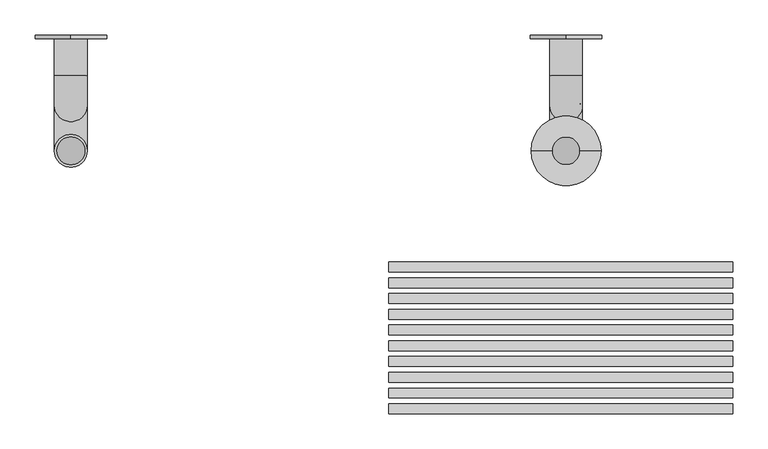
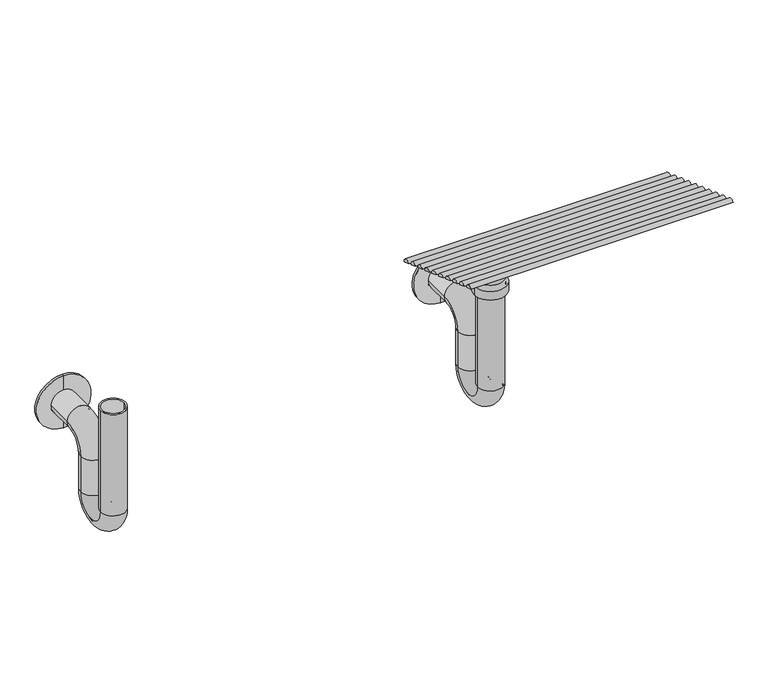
"""IFC4 building model written with IfcOpenShell, lengths in millimetres: proxy geometry, Tanque 2 cubas retangulares : Tanque 2 cubas retangulares."""

from ifc_helpers import new_model, si_unit, point, frame, frame_2d, origin, place, context, project, spatial, polyline, circle_curve, ellipse_curve, trimmed, segment, composite_curve, outline, extrude, source, transform, mapped, element, save
from ifc_brep_helpers import plane_surface, cylinder_surface, revolved_surface, advanced_brep


def generic_models_d0349c49(model_context):
    return source(origin(), model_context, "Body", "SolidModel", [
        advanced_brep(
        [(-383.3271876, -164.9171364, 622.6678395), (-336.6728124, -164.9171364, 622.6678395), (-380.0, -164.9171364, 622.6678395), (-340.0, -164.9171364, 622.6678395), (-383.3271876, -164.9171364, 422.6678395), (-336.6728124, -164.9171364, 422.6678395), (-380.0, -164.9171364, 422.6678395), (-340.0, -164.9171364, 422.6678395), (-336.6728124, -99.9171364, 422.6678395), (-383.3271876, -99.9171364, 422.6678395), (-340.0, -99.9171364, 422.6678395), (-380.0, -99.9171364, 422.6678395), (-383.3271876, -99.9171364, 492.6678395), (-336.6728124, -99.9171364, 492.6678395), (-380.0, -99.9171364, 492.6678395), (-340.0, -99.9171364, 492.6678395), (-336.6728124, -57.4907295, 535.0942464), (-383.3271876, -57.4907295, 535.0942464), (-340.0, -57.4907295, 535.0942464), (-380.0, -57.4907295, 535.0942464), (-383.3271876, 0.0, 535.0942464), (-336.6728124, 0.0, 535.0942464), (-380.0, 0.0, 535.0942464), (-340.0, 0.0, 535.0942464)],
        [
            (0, 1, circle_curve(frame((-360.0, -164.9171364, 622.6678395), z_axis=(0.0, 0.0, 1.0), x_axis=(1.0, 0.0, 0.0)), 23.3271876)),
            (1, 0, circle_curve(frame((-360.0, -164.9171364, 622.6678395), z_axis=(0.0, 0.0, 1.0), x_axis=(1.0, 0.0, 0.0)), 23.3271876)),
            (2, 3, circle_curve(frame((-360.0, -164.9171364, 622.6678395), z_axis=(0.0, 0.0, -1.0), x_axis=(1.0, 0.0, 0.0)), 20.0)),
            (3, 2, circle_curve(frame((-360.0, -164.9171364, 622.6678395), z_axis=(0.0, 0.0, -1.0), x_axis=(1.0, 0.0, 0.0)), 20.0)),
            (0, 4),
            (4, 5, circle_curve(frame((-360.0, -164.9171364, 422.6678395), z_axis=(0.0, 0.0, 1.0), x_axis=(1.0, 0.0, 0.0)), 23.3271876)),
            (5, 1),
            (5, 4, circle_curve(frame((-360.0, -164.9171364, 422.6678395), z_axis=(0.0, 0.0, 1.0), x_axis=(1.0, 0.0, 0.0)), 23.3271876)),
            (2, 6),
            (6, 7, circle_curve(frame((-360.0, -164.9171364, 422.6678395), z_axis=(0.0, 0.0, -1.0), x_axis=(1.0, 0.0, 0.0)), 20.0)),
            (7, 3),
            (7, 6, circle_curve(frame((-360.0, -164.9171364, 422.6678395), z_axis=(0.0, 0.0, -1.0), x_axis=(1.0, 0.0, 0.0)), 20.0)),
            (8, 5, circle_curve(frame((-336.6728124, -132.4171364, 422.6678395), z_axis=(-1.0, 0.0, 0.0), x_axis=(0.0, -1.0, 0.0)), 32.5)),
            (4, 9, circle_curve(frame((-383.3271876, -132.4171364, 422.6678395), z_axis=(1.0, 0.0, 0.0), x_axis=(0.0, -1.0, 0.0)), 32.5)),
            (9, 8, circle_curve(frame((-360.0, -99.9171364, 422.6678395), z_axis=(0.0, 0.0, -1.0), x_axis=(1.0, 0.0, 0.0)), 23.3271876)),
            (8, 9, circle_curve(frame((-360.0, -99.9171364, 422.6678395), z_axis=(0.0, 0.0, -1.0), x_axis=(1.0, 0.0, 0.0)), 23.3271876)),
            (10, 7, circle_curve(frame((-340.0, -132.4171364, 422.6678395), z_axis=(-1.0, 0.0, 0.0), x_axis=(0.0, -1.0, 0.0)), 32.5)),
            (6, 11, circle_curve(frame((-380.0, -132.4171364, 422.6678395), z_axis=(1.0, 0.0, 0.0), x_axis=(0.0, -1.0, 0.0)), 32.5)),
            (11, 10, circle_curve(frame((-360.0, -99.9171364, 422.6678395), z_axis=(0.0, 0.0, 1.0), x_axis=(1.0, 0.0, 0.0)), 20.0)),
            (10, 11, circle_curve(frame((-360.0, -99.9171364, 422.6678395), z_axis=(0.0, 0.0, 1.0), x_axis=(1.0, 0.0, 0.0)), 20.0)),
            (9, 12),
            (12, 13, circle_curve(frame((-360.0, -99.9171364, 492.6678395), z_axis=(0.0, 0.0, -1.0), x_axis=(1.0, 0.0, 0.0)), 23.3271876)),
            (13, 8),
            (13, 12, circle_curve(frame((-360.0, -99.9171364, 492.6678395), z_axis=(0.0, 0.0, -1.0), x_axis=(1.0, 0.0, 0.0)), 23.3271876)),
            (11, 14),
            (14, 15, circle_curve(frame((-360.0, -99.9171364, 492.6678395), z_axis=(0.0, 0.0, 1.0), x_axis=(1.0, 0.0, 0.0)), 20.0)),
            (15, 10),
            (15, 14, circle_curve(frame((-360.0, -99.9171364, 492.6678395), z_axis=(0.0, 0.0, 1.0), x_axis=(1.0, 0.0, 0.0)), 20.0)),
            (16, 13, circle_curve(frame((-336.6728124, -57.4907295, 492.6678395), z_axis=(1.0, 0.0, 0.0), x_axis=(0.0, -1.0, 0.0)), 42.4264069)),
            (12, 17, circle_curve(frame((-383.3271876, -57.4907295, 492.6678395), z_axis=(-1.0, 0.0, 0.0), x_axis=(0.0, -1.0, 0.0)), 42.4264069)),
            (17, 16, circle_curve(frame((-360.0, -57.4907295, 535.0942464), z_axis=(0.0, -1.0, 0.0), x_axis=(1.0, 0.0, 0.0)), 23.3271876)),
            (16, 17, circle_curve(frame((-360.0, -57.4907295, 535.0942464), z_axis=(0.0, -1.0, 0.0), x_axis=(1.0, 0.0, 0.0)), 23.3271876)),
            (18, 15, circle_curve(frame((-340.0, -57.4907295, 492.6678395), z_axis=(1.0, 0.0, 0.0), x_axis=(0.0, -1.0, 0.0)), 42.4264069)),
            (14, 19, circle_curve(frame((-380.0, -57.4907295, 492.6678395), z_axis=(-1.0, 0.0, 0.0), x_axis=(0.0, -1.0, 0.0)), 42.4264069)),
            (19, 18, circle_curve(frame((-360.0, -57.4907295, 535.0942464), z_axis=(0.0, 1.0, 0.0), x_axis=(1.0, 0.0, 0.0)), 20.0)),
            (18, 19, circle_curve(frame((-360.0, -57.4907295, 535.0942464), z_axis=(0.0, 1.0, 0.0), x_axis=(1.0, 0.0, 0.0)), 20.0)),
            (20, 21, circle_curve(frame((-360.0, 0.0, 535.0942464), z_axis=(0.0, 1.0, 0.0), x_axis=(1.0, 0.0, 0.0)), 23.3271876)),
            (21, 20, circle_curve(frame((-360.0, 0.0, 535.0942464), z_axis=(0.0, 1.0, 0.0), x_axis=(1.0, 0.0, 0.0)), 23.3271876)),
            (22, 23, circle_curve(frame((-360.0, 0.0, 535.0942464), z_axis=(0.0, -1.0, 0.0), x_axis=(1.0, 0.0, 0.0)), 20.0)),
            (23, 22, circle_curve(frame((-360.0, 0.0, 535.0942464), z_axis=(0.0, -1.0, 0.0), x_axis=(1.0, 0.0, 0.0)), 20.0)),
            (17, 20),
            (21, 16),
            (19, 22),
            (23, 18),
        ],
        [
            plane_surface(frame((-360.0, -164.9171364, 622.6678395), z_axis=(0.0, 0.0, 1.0), x_axis=(-1.0, 0.0, 0.0))),
            cylinder_surface(frame((-360.0, -164.9171364, 622.6678395), z_axis=(0.0, 0.0, 1.0), x_axis=(1.0, 0.0, 0.0)), 23.3271876),
            revolved_surface(polyline([(-340.0, -164.9171364, 422.6678395), (-340.0, -164.9171364, 622.6678395)]), (-360.0, -164.9171364, 622.6678395), (0.0, 0.0, -1.0)),
            revolved_surface(trimmed(ellipse_curve(frame((-360.0, -164.9171364, 422.6678395), z_axis=(0.0, 0.0, 1.0), x_axis=(1.0, 0.0, 0.0)), 23.3271876, 23.3271876), [point((-383.3271876, -164.9171364, 422.6678395))], [point((-336.6728124, -164.9171364, 422.6678395))], True, "CARTESIAN"), (-360.0, -132.4171364, 422.6678395), (1.0, 0.0, 0.0)),
            revolved_surface(trimmed(ellipse_curve(frame((-360.0, -164.9171364, 422.6678395), z_axis=(0.0, 0.0, 1.0), x_axis=(1.0, 0.0, 0.0)), 23.3271876, 23.3271876), [point((-336.6728124, -164.9171364, 422.6678395))], [point((-383.3271876, -164.9171364, 422.6678395))], True, "CARTESIAN"), (-360.0, -132.4171364, 422.6678395), (1.0, 0.0, 0.0)),
            revolved_surface(trimmed(ellipse_curve(frame((-360.0, -164.9171364, 422.6678395), z_axis=(0.0, 0.0, -1.0), x_axis=(1.0, 0.0, 0.0)), 20.0, 20.0), [point((-380.0, -164.9171364, 422.6678395))], [point((-340.0, -164.9171364, 422.6678395))], True, "CARTESIAN"), (-360.0, -132.4171364, 422.6678395), (1.0, 0.0, 0.0)),
            revolved_surface(trimmed(ellipse_curve(frame((-360.0, -164.9171364, 422.6678395), z_axis=(0.0, 0.0, -1.0), x_axis=(1.0, 0.0, 0.0)), 20.0, 20.0), [point((-340.0, -164.9171364, 422.6678395))], [point((-380.0, -164.9171364, 422.6678395))], True, "CARTESIAN"), (-360.0, -132.4171364, 422.6678395), (1.0, 0.0, 0.0)),
            cylinder_surface(frame((-360.0, -99.9171364, 422.6678395), z_axis=(0.0, 0.0, -1.0), x_axis=(1.0, 0.0, 0.0)), 23.3271876),
            revolved_surface(polyline([(-340.0, -99.9171364, 492.6678395), (-340.0, -99.9171364, 422.6678395)]), (-360.0, -99.9171364, 422.6678395), (0.0, 0.0, 1.0)),
            revolved_surface(trimmed(ellipse_curve(frame((-360.0, -99.9171364, 492.6678395), z_axis=(0.0, 0.0, -1.0), x_axis=(1.0, 0.0, 0.0)), 23.3271876, 23.3271876), [point((-383.3271876, -99.9171364, 492.6678395))], [point((-336.6728124, -99.9171364, 492.6678395))], True, "CARTESIAN"), (-360.0, -57.4907295, 492.6678395), (-1.0, 0.0, 0.0)),
            revolved_surface(trimmed(ellipse_curve(frame((-360.0, -99.9171364, 492.6678395), z_axis=(0.0, 0.0, -1.0), x_axis=(1.0, 0.0, 0.0)), 23.3271876, 23.3271876), [point((-336.6728124, -99.9171364, 492.6678395))], [point((-383.3271876, -99.9171364, 492.6678395))], True, "CARTESIAN"), (-360.0, -57.4907295, 492.6678395), (-1.0, 0.0, 0.0)),
            revolved_surface(trimmed(ellipse_curve(frame((-360.0, -99.9171364, 492.6678395), z_axis=(0.0, 0.0, 1.0), x_axis=(1.0, 0.0, 0.0)), 20.0, 20.0), [point((-380.0, -99.9171364, 492.6678395))], [point((-340.0, -99.9171364, 492.6678395))], True, "CARTESIAN"), (-360.0, -57.4907295, 492.6678395), (-1.0, 0.0, 0.0)),
            revolved_surface(trimmed(ellipse_curve(frame((-360.0, -99.9171364, 492.6678395), z_axis=(0.0, 0.0, 1.0), x_axis=(1.0, 0.0, 0.0)), 20.0, 20.0), [point((-340.0, -99.9171364, 492.6678395))], [point((-380.0, -99.9171364, 492.6678395))], True, "CARTESIAN"), (-360.0, -57.4907295, 492.6678395), (-1.0, 0.0, 0.0)),
            plane_surface(frame((-360.0, 0.0, 535.0942464), z_axis=(0.0, 1.0, 0.0), x_axis=(-1.0, 0.0, 0.0))),
            cylinder_surface(frame((-360.0, -57.4907295, 535.0942464), z_axis=(0.0, -1.0, 0.0), x_axis=(1.0, 0.0, 0.0)), 23.3271876),
            revolved_surface(polyline([(-340.0, 0.0, 535.0942464), (-340.0, -57.4907295, 535.0942464)]), (-360.0, -57.4907295, 535.0942464), (0.0, 1.0, 0.0)),
        ],
        [
            (0, [[1, 2], [3, 4]]),
            (1, [[-1, 5, 6, 7]]),
            (1, [[-2, -7, 8, -5]]),
            (2, [[-3, 9, 10, 11]]),
            (2, [[-4, -11, 12, -9]]),
            (3, [[13, -6, 14, 15]]),
            (4, [[-14, -8, -13, 16]]),
            (5, [[17, -10, 18, 19]]),
            (6, [[-18, -12, -17, 20]]),
            (7, [[-15, 21, 22, 23]]),
            (7, [[-16, -23, 24, -21]]),
            (8, [[-19, 25, 26, 27]]),
            (8, [[-20, -27, 28, -25]]),
            (9, [[29, -22, 30, 31]]),
            (10, [[-30, -24, -29, 32]]),
            (11, [[33, -26, 34, 35]]),
            (12, [[-34, -28, -33, 36]]),
            (13, [[37, 38], [39, 40]]),
            (14, [[-31, 41, -38, 42]]),
            (14, [[-32, -42, -37, -41]]),
            (15, [[-35, 43, -40, 44]]),
            (15, [[-36, -44, -39, -43]]),
        ],
    ),
        advanced_brep(
        [(-360.0, -5.0, 483.914975), (-360.0, -5.0, 586.2735178), (-360.0, -5.0, 558.4214341), (-360.0, -5.0, 511.7670588), (-360.0, 0.0, 483.914975), (-360.0, 0.0, 586.2735178), (-360.0, 0.0, 511.7670588), (-360.0, 0.0, 558.4214341)],
        [
            (0, 1, circle_curve(frame((-360.0, -5.0, 535.0942464), z_axis=(0.0, -1.0, 0.0), x_axis=(0.0, 0.0, 1.0)), 51.1792714)),
            (1, 2),
            (2, 3, circle_curve(frame((-360.0, -5.0, 535.0942464), z_axis=(0.0, 1.0, 0.0), x_axis=(0.0, 0.0, 1.0)), 23.3271876)),
            (3, 0),
            (1, 0, circle_curve(frame((-360.0, -5.0, 535.0942464), z_axis=(0.0, -1.0, 0.0), x_axis=(0.0, 0.0, 1.0)), 51.1792714)),
            (3, 2, circle_curve(frame((-360.0, -5.0, 535.0942464), z_axis=(0.0, 1.0, 0.0), x_axis=(0.0, 0.0, 1.0)), 23.3271876)),
            (4, 5, circle_curve(frame((-360.0, 0.0, 535.0942464), z_axis=(0.0, -1.0, 0.0), x_axis=(0.0, 0.0, 1.0)), 51.1792714)),
            (5, 1),
            (0, 4),
            (5, 4, circle_curve(frame((-360.0, 0.0, 535.0942464), z_axis=(0.0, -1.0, 0.0), x_axis=(0.0, 0.0, 1.0)), 51.1792714)),
            (6, 7, circle_curve(frame((-360.0, 0.0, 535.0942464), z_axis=(0.0, -1.0, 0.0), x_axis=(0.0, 0.0, 1.0)), 23.3271876)),
            (7, 5),
            (4, 6),
            (7, 6, circle_curve(frame((-360.0, 0.0, 535.0942464), z_axis=(0.0, -1.0, 0.0), x_axis=(0.0, 0.0, 1.0)), 23.3271876)),
            (2, 7),
            (6, 3),
        ],
        [
            plane_surface(frame((-360.0, -5.0, 535.0942464), z_axis=(0.0, -1.0, 0.0), x_axis=(0.0, 0.0, 1.0))),
            cylinder_surface(frame((-360.0, 0.0, 535.0942464), z_axis=(0.0, 1.0, 0.0), x_axis=(0.0, 0.0, 1.0)), 51.1792714),
            plane_surface(frame((-360.0, 0.0, 535.0942464), z_axis=(0.0, 1.0, 0.0), x_axis=(0.0, 0.0, 1.0))),
            revolved_surface(polyline([(-360.0, 0.0, 558.421434), (-360.0, -5.0, 558.421434)]), (-360.0, 0.0, 535.0942464), (0.0, 1.0, 0.0)),
        ],
        [
            (0, [[1, 2, 3, 4]]),
            (0, [[5, -4, 6, -2]]),
            (1, [[7, 8, -1, 9]]),
            (1, [[10, -9, -5, -8]]),
            (2, [[11, 12, -7, 13]]),
            (2, [[14, -13, -10, -12]]),
            (3, [[-3, 15, -11, 16]]),
            (3, [[-6, -16, -14, -15]]),
        ],
    ),
        extrude(outline(composite_curve([segment(polyline([(-525.7062228, 918.2030818), (-539.8412015, 923.2232789)]), True, "CONTINUOUS"), segment(trimmed(circle_curve(frame_2d((-533.2794689, 919.2891604)), 7.6507269), [point((-539.8412015, 923.2232789))], [point((-525.7062228, 918.2030818))], False, "CARTESIAN"), True, "CONTINUOUS")], self_intersect=False)), frame((92.5795025, 0.0, 0.0), z_axis=(1.0, 0.0, 0.0), x_axis=(0.0, 1.0, 0.0)), (0.0, 0.0, 1.0), 490.0),
        extrude(outline(composite_curve([segment(polyline([(-503.2407742, 910.2242244), (-517.3757528, 915.2444215)]), True, "CONTINUOUS"), segment(trimmed(circle_curve(frame_2d((-510.8140202, 911.310303)), 7.6507269), [point((-517.3757528, 915.2444215))], [point((-503.2407742, 910.2242244))], False, "CARTESIAN"), True, "CONTINUOUS")], self_intersect=False)), frame((92.5795025, 0.0, 0.0), z_axis=(1.0, 0.0, 0.0), x_axis=(0.0, 1.0, 0.0)), (0.0, 0.0, 1.0), 490.0),
        extrude(outline(composite_curve([segment(polyline([(-480.7753255, 902.2453671), (-494.9103042, 907.2655641)]), True, "CONTINUOUS"), segment(trimmed(circle_curve(frame_2d((-488.3485716, 903.3314457)), 7.6507269), [point((-494.9103042, 907.2655641))], [point((-480.7753255, 902.2453671))], False, "CARTESIAN"), True, "CONTINUOUS")], self_intersect=False)), frame((92.5795025, 0.0, 0.0), z_axis=(1.0, 0.0, 0.0), x_axis=(0.0, 1.0, 0.0)), (0.0, 0.0, 1.0), 490.0),
        extrude(outline(composite_curve([segment(polyline([(-458.3098769, 894.2665097), (-472.4448555, 899.2867067)]), True, "CONTINUOUS"), segment(trimmed(circle_curve(frame_2d((-465.883123, 895.3525883)), 7.6507269), [point((-472.4448555, 899.2867067))], [point((-458.3098769, 894.2665097))], False, "CARTESIAN"), True, "CONTINUOUS")], self_intersect=False)), frame((92.5795025, 0.0, 0.0), z_axis=(1.0, 0.0, 0.0), x_axis=(0.0, 1.0, 0.0)), (0.0, 0.0, 1.0), 490.0),
        extrude(outline(composite_curve([segment(polyline([(-435.8444282, 886.2876523), (-449.9794069, 891.3078494)]), True, "CONTINUOUS"), segment(trimmed(circle_curve(frame_2d((-443.4176743, 887.3737309)), 7.6507269), [point((-449.9794069, 891.3078494))], [point((-435.8444282, 886.2876523))], False, "CARTESIAN"), True, "CONTINUOUS")], self_intersect=False)), frame((92.5795025, 0.0, 0.0), z_axis=(1.0, 0.0, 0.0), x_axis=(0.0, 1.0, 0.0)), (0.0, 0.0, 1.0), 490.0),
        extrude(outline(composite_curve([segment(polyline([(-413.3789796, 878.308795), (-427.5139583, 883.328992)]), True, "CONTINUOUS"), segment(trimmed(circle_curve(frame_2d((-420.9522257, 879.3948735)), 7.6507269), [point((-427.5139583, 883.328992))], [point((-413.3789796, 878.308795))], False, "CARTESIAN"), True, "CONTINUOUS")], self_intersect=False)), frame((92.5795025, 0.0, 0.0), z_axis=(1.0, 0.0, 0.0), x_axis=(0.0, 1.0, 0.0)), (0.0, 0.0, 1.0), 490.0),
        extrude(outline(composite_curve([segment(polyline([(-390.913531, 870.3299376), (-405.0485096, 875.3501346)]), True, "CONTINUOUS"), segment(trimmed(circle_curve(frame_2d((-398.486777, 871.4160162)), 7.6507269), [point((-405.0485096, 875.3501346))], [point((-390.913531, 870.3299376))], False, "CARTESIAN"), True, "CONTINUOUS")], self_intersect=False)), frame((92.5795025, 0.0, 0.0), z_axis=(1.0, 0.0, 0.0), x_axis=(0.0, 1.0, 0.0)), (0.0, 0.0, 1.0), 490.0),
        extrude(outline(composite_curve([segment(polyline([(-368.4480823, 862.3510802), (-382.583061, 867.3712772)]), True, "CONTINUOUS"), segment(trimmed(circle_curve(frame_2d((-376.0213284, 863.4371588)), 7.6507269), [point((-382.583061, 867.3712772))], [point((-368.4480823, 862.3510802))], False, "CARTESIAN"), True, "CONTINUOUS")], self_intersect=False)), frame((92.5795025, 0.0, 0.0), z_axis=(1.0, 0.0, 0.0), x_axis=(0.0, 1.0, 0.0)), (0.0, 0.0, 1.0), 490.0),
        extrude(outline(composite_curve([segment(polyline([(-345.9826337, 854.3722228), (-360.1176123, 859.3924199)]), True, "CONTINUOUS"), segment(trimmed(circle_curve(frame_2d((-353.5558797, 855.4583014)), 7.6507269), [point((-360.1176123, 859.3924199))], [point((-345.9826337, 854.3722228))], False, "CARTESIAN"), True, "CONTINUOUS")], self_intersect=False)), frame((92.5795025, 0.0, 0.0), z_axis=(1.0, 0.0, 0.0), x_axis=(0.0, 1.0, 0.0)), (0.0, 0.0, 1.0), 490.0),
        extrude(outline(composite_curve([segment(polyline([(-323.517185, 846.3933655), (-337.6521637, 851.4135625)]), True, "CONTINUOUS"), segment(trimmed(circle_curve(frame_2d((-331.0904311, 847.479444)), 7.6507269), [point((-337.6521637, 851.4135625))], [point((-323.517185, 846.3933655))], False, "CARTESIAN"), True, "CONTINUOUS")], self_intersect=False)), frame((92.5795025, 0.0, 0.0), z_axis=(1.0, 0.0, 0.0), x_axis=(0.0, 1.0, 0.0)), (0.0, 0.0, 1.0), 490.0),
        advanced_brep(
        [(295.2715171, -164.9171364, 670.0), (394.8344862, -164.9171364, 670.0), (369.8344862, -164.9171364, 670.0), (320.2715171, -164.9171364, 670.0), (369.8344862, -164.9171364, 632.6678395), (320.2715171, -164.9171364, 632.6678395), (374.8344862, -164.9171364, 624.0075855), (315.2715171, -164.9171364, 624.0075855), (374.8344862, -164.9171364, 606.7045547), (315.2715171, -164.9171364, 606.7045547), (369.8344862, -164.9171364, 606.7045547), (320.2715171, -164.9171364, 606.7045547), (369.8344862, -164.9171364, 622.6678395), (320.2715171, -164.9171364, 622.6678395), (364.8344862, -164.9171364, 631.3280936), (325.2715171, -164.9171364, 631.3280936), (364.8344862, -164.9171364, 675.0), (325.2715171, -164.9171364, 675.0), (394.8344862, -164.9171364, 675.0), (295.2715171, -164.9171364, 675.0)],
        [
            (0, 1, circle_curve(frame((345.0530016, -164.9171364, 670.0), z_axis=(0.0, 0.0, -1.0), x_axis=(1.0, 0.0, 0.0)), 49.7814845)),
            (1, 2),
            (2, 3, circle_curve(frame((345.0530016, -164.9171364, 670.0), z_axis=(0.0, 0.0, 1.0), x_axis=(1.0, 0.0, 0.0)), 24.7814845)),
            (3, 0),
            (1, 0, circle_curve(frame((345.0530016, -164.9171364, 670.0), z_axis=(0.0, 0.0, -1.0), x_axis=(1.0, 0.0, 0.0)), 49.7814845)),
            (3, 2, circle_curve(frame((345.0530016, -164.9171364, 670.0), z_axis=(0.0, 0.0, 1.0), x_axis=(1.0, 0.0, 0.0)), 24.7814845)),
            (2, 4),
            (4, 5, circle_curve(frame((345.0530016, -164.9171364, 632.6678395), z_axis=(0.0, 0.0, 1.0), x_axis=(1.0, 0.0, 0.0)), 24.7814845)),
            (5, 3),
            (5, 4, circle_curve(frame((345.0530016, -164.9171364, 632.6678395), z_axis=(0.0, 0.0, 1.0), x_axis=(1.0, 0.0, 0.0)), 24.7814845)),
            (4, 6),
            (6, 7, circle_curve(frame((345.0530016, -164.9171364, 624.0075855), z_axis=(0.0, 0.0, 1.0), x_axis=(1.0, 0.0, 0.0)), 29.7814845)),
            (7, 5),
            (7, 6, circle_curve(frame((345.0530016, -164.9171364, 624.0075855), z_axis=(0.0, 0.0, 1.0), x_axis=(1.0, 0.0, 0.0)), 29.7814845)),
            (6, 8),
            (8, 9, circle_curve(frame((345.0530016, -164.9171364, 606.7045547), z_axis=(0.0, 0.0, 1.0), x_axis=(1.0, 0.0, 0.0)), 29.7814845)),
            (9, 7),
            (9, 8, circle_curve(frame((345.0530016, -164.9171364, 606.7045547), z_axis=(0.0, 0.0, 1.0), x_axis=(1.0, 0.0, 0.0)), 29.7814845)),
            (8, 10),
            (10, 11, circle_curve(frame((345.0530016, -164.9171364, 606.7045547), z_axis=(0.0, 0.0, 1.0), x_axis=(1.0, 0.0, 0.0)), 24.7814845)),
            (11, 9),
            (11, 10, circle_curve(frame((345.0530016, -164.9171364, 606.7045547), z_axis=(0.0, 0.0, 1.0), x_axis=(1.0, 0.0, 0.0)), 24.7814845)),
            (10, 12),
            (12, 13, circle_curve(frame((345.0530016, -164.9171364, 622.6678395), z_axis=(0.0, 0.0, 1.0), x_axis=(1.0, 0.0, 0.0)), 24.7814845)),
            (13, 11),
            (13, 12, circle_curve(frame((345.0530016, -164.9171364, 622.6678395), z_axis=(0.0, 0.0, 1.0), x_axis=(1.0, 0.0, 0.0)), 24.7814845)),
            (12, 14),
            (14, 15, circle_curve(frame((345.0530016, -164.9171364, 631.3280936), z_axis=(0.0, 0.0, 1.0), x_axis=(1.0, 0.0, 0.0)), 19.7814845)),
            (15, 13),
            (15, 14, circle_curve(frame((345.0530016, -164.9171364, 631.3280936), z_axis=(0.0, 0.0, 1.0), x_axis=(1.0, 0.0, 0.0)), 19.7814845)),
            (14, 16),
            (16, 17, circle_curve(frame((345.0530016, -164.9171364, 675.0), z_axis=(0.0, 0.0, 1.0), x_axis=(1.0, 0.0, 0.0)), 19.7814845)),
            (17, 15),
            (17, 16, circle_curve(frame((345.0530016, -164.9171364, 675.0), z_axis=(0.0, 0.0, 1.0), x_axis=(1.0, 0.0, 0.0)), 19.7814845)),
            (16, 18),
            (18, 19, circle_curve(frame((345.0530016, -164.9171364, 675.0), z_axis=(0.0, 0.0, 1.0), x_axis=(1.0, 0.0, 0.0)), 49.7814845)),
            (19, 17),
            (19, 18, circle_curve(frame((345.0530016, -164.9171364, 675.0), z_axis=(0.0, 0.0, 1.0), x_axis=(1.0, 0.0, 0.0)), 49.7814845)),
            (18, 1),
            (0, 19),
        ],
        [
            plane_surface(frame((345.0530016, -164.9171364, 670.0), z_axis=(0.0, 0.0, -1.0), x_axis=(1.0, 0.0, 0.0))),
            cylinder_surface(frame((345.0530016, -164.9171364, 670.0), z_axis=(0.0, 0.0, 1.0), x_axis=(1.0, 0.0, 0.0)), 24.7814845),
            revolved_surface(polyline([(374.8344862, -164.9171364, 624.0075855), (369.8344862, -164.9171364, 632.6678395)]), (345.0530016, -164.9171364, 670.0), (0.0, 0.0, 1.0)),
            cylinder_surface(frame((345.0530016, -164.9171364, 670.0), z_axis=(0.0, 0.0, 1.0), x_axis=(1.0, 0.0, 0.0)), 29.7814845),
            plane_surface(frame((345.0530016, -164.9171364, 606.7045547), z_axis=(0.0, 0.0, -1.0), x_axis=(1.0, 0.0, 0.0))),
            revolved_surface(polyline([(369.8344861, -164.9171364, 622.6678395), (369.8344861, -164.9171364, 606.7045547)]), (345.0530016, -164.9171364, 670.0), (0.0, 0.0, 1.0)),
            revolved_surface(polyline([(364.8344862, -164.9171364, 631.3280936), (369.8344862, -164.9171364, 622.6678395)]), (345.0530016, -164.9171364, 670.0), (0.0, 0.0, 1.0)),
            revolved_surface(polyline([(364.8344861, -164.9171364, 675.0), (364.8344861, -164.9171364, 631.3280936)]), (345.0530016, -164.9171364, 670.0), (0.0, 0.0, 1.0)),
            plane_surface(frame((345.0530016, -164.9171364, 675.0), z_axis=(0.0, 0.0, 1.0), x_axis=(1.0, 0.0, 0.0))),
            cylinder_surface(frame((345.0530016, -164.9171364, 670.0), z_axis=(0.0, 0.0, 1.0), x_axis=(1.0, 0.0, 0.0)), 49.7814845),
        ],
        [
            (0, [[1, 2, 3, 4]]),
            (0, [[5, -4, 6, -2]]),
            (1, [[-3, 7, 8, 9]]),
            (1, [[-6, -9, 10, -7]]),
            (2, [[-8, 11, 12, 13]]),
            (2, [[-10, -13, 14, -11]]),
            (3, [[-12, 15, 16, 17]]),
            (3, [[-14, -17, 18, -15]]),
            (4, [[-16, 19, 20, 21]]),
            (4, [[-18, -21, 22, -19]]),
            (5, [[-20, 23, 24, 25]]),
            (5, [[-22, -25, 26, -23]]),
            (6, [[-24, 27, 28, 29]]),
            (6, [[-26, -29, 30, -27]]),
            (7, [[-28, 31, 32, 33]]),
            (7, [[-30, -33, 34, -31]]),
            (8, [[-32, 35, 36, 37]]),
            (8, [[-34, -37, 38, -35]]),
            (9, [[-36, 39, -1, 40]]),
            (9, [[-38, -40, -5, -39]]),
        ],
    ),
        advanced_brep(
        [(321.725814, -164.9171364, 622.6678395), (368.3801893, -164.9171364, 622.6678395), (325.0530016, -164.9171364, 622.6678395), (365.0530016, -164.9171364, 622.6678395), (321.725814, -164.9171364, 422.6678395), (368.3801893, -164.9171364, 422.6678395), (325.0530016, -164.9171364, 422.6678395), (365.0530016, -164.9171364, 422.6678395), (368.3801893, -99.9171364, 422.6678395), (321.725814, -99.9171364, 422.6678395), (365.0530016, -99.9171364, 422.6678395), (325.0530016, -99.9171364, 422.6678395), (321.725814, -99.9171364, 492.6678395), (368.3801893, -99.9171364, 492.6678395), (325.0530016, -99.9171364, 492.6678395), (365.0530016, -99.9171364, 492.6678395), (368.3801893, -57.4907295, 535.0942464), (321.725814, -57.4907295, 535.0942464), (365.0530016, -57.4907295, 535.0942464), (325.0530016, -57.4907295, 535.0942464), (321.725814, 0.0, 535.0942464), (368.3801893, 0.0, 535.0942464), (325.0530016, 0.0, 535.0942464), (365.0530016, 0.0, 535.0942464)],
        [
            (0, 1, circle_curve(frame((345.0530016, -164.9171364, 622.6678395), z_axis=(0.0, 0.0, 1.0), x_axis=(1.0, 0.0, 0.0)), 23.3271876)),
            (1, 0, circle_curve(frame((345.0530016, -164.9171364, 622.6678395), z_axis=(0.0, 0.0, 1.0), x_axis=(1.0, 0.0, 0.0)), 23.3271876)),
            (2, 3, circle_curve(frame((345.0530016, -164.9171364, 622.6678395), z_axis=(0.0, 0.0, -1.0), x_axis=(1.0, 0.0, 0.0)), 20.0)),
            (3, 2, circle_curve(frame((345.0530016, -164.9171364, 622.6678395), z_axis=(0.0, 0.0, -1.0), x_axis=(1.0, 0.0, 0.0)), 20.0)),
            (0, 4),
            (4, 5, circle_curve(frame((345.0530016, -164.9171364, 422.6678395), z_axis=(0.0, 0.0, 1.0), x_axis=(1.0, 0.0, 0.0)), 23.3271876)),
            (5, 1),
            (5, 4, circle_curve(frame((345.0530016, -164.9171364, 422.6678395), z_axis=(0.0, 0.0, 1.0), x_axis=(1.0, 0.0, 0.0)), 23.3271876)),
            (2, 6),
            (6, 7, circle_curve(frame((345.0530016, -164.9171364, 422.6678395), z_axis=(0.0, 0.0, -1.0), x_axis=(1.0, 0.0, 0.0)), 20.0)),
            (7, 3),
            (7, 6, circle_curve(frame((345.0530016, -164.9171364, 422.6678395), z_axis=(0.0, 0.0, -1.0), x_axis=(1.0, 0.0, 0.0)), 20.0)),
            (8, 5, circle_curve(frame((368.3801893, -132.4171364, 422.6678395), z_axis=(-1.0, 0.0, 0.0), x_axis=(0.0, -1.0, 0.0)), 32.5)),
            (4, 9, circle_curve(frame((321.725814, -132.4171364, 422.6678395), z_axis=(1.0, 0.0, 0.0), x_axis=(0.0, -1.0, 0.0)), 32.5)),
            (9, 8, circle_curve(frame((345.0530016, -99.9171364, 422.6678395), z_axis=(0.0, 0.0, -1.0), x_axis=(1.0, 0.0, 0.0)), 23.3271876)),
            (8, 9, circle_curve(frame((345.0530016, -99.9171364, 422.6678395), z_axis=(0.0, 0.0, -1.0), x_axis=(1.0, 0.0, 0.0)), 23.3271876)),
            (10, 7, circle_curve(frame((365.0530016, -132.4171364, 422.6678395), z_axis=(-1.0, 0.0, 0.0), x_axis=(0.0, -1.0, 0.0)), 32.5)),
            (6, 11, circle_curve(frame((325.0530016, -132.4171364, 422.6678395), z_axis=(1.0, 0.0, 0.0), x_axis=(0.0, -1.0, 0.0)), 32.5)),
            (11, 10, circle_curve(frame((345.0530016, -99.9171364, 422.6678395), z_axis=(0.0, 0.0, 1.0), x_axis=(1.0, 0.0, 0.0)), 20.0)),
            (10, 11, circle_curve(frame((345.0530016, -99.9171364, 422.6678395), z_axis=(0.0, 0.0, 1.0), x_axis=(1.0, 0.0, 0.0)), 20.0)),
            (9, 12),
            (12, 13, circle_curve(frame((345.0530016, -99.9171364, 492.6678395), z_axis=(0.0, 0.0, -1.0), x_axis=(1.0, 0.0, 0.0)), 23.3271876)),
            (13, 8),
            (13, 12, circle_curve(frame((345.0530016, -99.9171364, 492.6678395), z_axis=(0.0, 0.0, -1.0), x_axis=(1.0, 0.0, 0.0)), 23.3271876)),
            (11, 14),
            (14, 15, circle_curve(frame((345.0530016, -99.9171364, 492.6678395), z_axis=(0.0, 0.0, 1.0), x_axis=(1.0, 0.0, 0.0)), 20.0)),
            (15, 10),
            (15, 14, circle_curve(frame((345.0530016, -99.9171364, 492.6678395), z_axis=(0.0, 0.0, 1.0), x_axis=(1.0, 0.0, 0.0)), 20.0)),
            (16, 13, circle_curve(frame((368.3801893, -57.4907295, 492.6678395), z_axis=(1.0, 0.0, 0.0), x_axis=(0.0, -1.0, 0.0)), 42.4264069)),
            (12, 17, circle_curve(frame((321.725814, -57.4907295, 492.6678395), z_axis=(-1.0, 0.0, 0.0), x_axis=(0.0, -1.0, 0.0)), 42.4264069)),
            (17, 16, circle_curve(frame((345.0530016, -57.4907295, 535.0942464), z_axis=(0.0, -1.0, 0.0), x_axis=(1.0, 0.0, 0.0)), 23.3271876)),
            (16, 17, circle_curve(frame((345.0530016, -57.4907295, 535.0942464), z_axis=(0.0, -1.0, 0.0), x_axis=(1.0, 0.0, 0.0)), 23.3271876)),
            (18, 15, circle_curve(frame((365.0530016, -57.4907295, 492.6678395), z_axis=(1.0, 0.0, 0.0), x_axis=(0.0, -1.0, 0.0)), 42.4264069)),
            (14, 19, circle_curve(frame((325.0530016, -57.4907295, 492.6678395), z_axis=(-1.0, 0.0, 0.0), x_axis=(0.0, -1.0, 0.0)), 42.4264069)),
            (19, 18, circle_curve(frame((345.0530016, -57.4907295, 535.0942464), z_axis=(0.0, 1.0, 0.0), x_axis=(1.0, 0.0, 0.0)), 20.0)),
            (18, 19, circle_curve(frame((345.0530016, -57.4907295, 535.0942464), z_axis=(0.0, 1.0, 0.0), x_axis=(1.0, 0.0, 0.0)), 20.0)),
            (20, 21, circle_curve(frame((345.0530016, 0.0, 535.0942464), z_axis=(0.0, 1.0, 0.0), x_axis=(1.0, 0.0, 0.0)), 23.3271876)),
            (21, 20, circle_curve(frame((345.0530016, 0.0, 535.0942464), z_axis=(0.0, 1.0, 0.0), x_axis=(1.0, 0.0, 0.0)), 23.3271876)),
            (22, 23, circle_curve(frame((345.0530016, 0.0, 535.0942464), z_axis=(0.0, -1.0, 0.0), x_axis=(1.0, 0.0, 0.0)), 20.0)),
            (23, 22, circle_curve(frame((345.0530016, 0.0, 535.0942464), z_axis=(0.0, -1.0, 0.0), x_axis=(1.0, 0.0, 0.0)), 20.0)),
            (17, 20),
            (21, 16),
            (19, 22),
            (23, 18),
        ],
        [
            plane_surface(frame((345.0530016, -164.9171364, 622.6678395), z_axis=(0.0, 0.0, 1.0), x_axis=(-1.0, 0.0, 0.0))),
            cylinder_surface(frame((345.0530016, -164.9171364, 622.6678395), z_axis=(0.0, 0.0, 1.0), x_axis=(1.0, 0.0, 0.0)), 23.3271876),
            revolved_surface(polyline([(365.0530016, -164.9171364, 422.6678395), (365.0530016, -164.9171364, 622.6678395)]), (345.0530016, -164.9171364, 622.6678395), (0.0, 0.0, -1.0)),
            revolved_surface(trimmed(ellipse_curve(frame((345.0530016, -164.9171364, 422.6678395), z_axis=(0.0, 0.0, 1.0), x_axis=(1.0, 0.0, 0.0)), 23.3271876, 23.3271876), [point((321.725814, -164.9171364, 422.6678395))], [point((368.3801893, -164.9171364, 422.6678395))], True, "CARTESIAN"), (345.0530016, -132.4171364, 422.6678395), (1.0, 0.0, 0.0)),
            revolved_surface(trimmed(ellipse_curve(frame((345.0530016, -164.9171364, 422.6678395), z_axis=(0.0, 0.0, 1.0), x_axis=(1.0, 0.0, 0.0)), 23.3271876, 23.3271876), [point((368.3801893, -164.9171364, 422.6678395))], [point((321.725814, -164.9171364, 422.6678395))], True, "CARTESIAN"), (345.0530016, -132.4171364, 422.6678395), (1.0, 0.0, 0.0)),
            revolved_surface(trimmed(ellipse_curve(frame((345.0530016, -164.9171364, 422.6678395), z_axis=(0.0, 0.0, -1.0), x_axis=(1.0, 0.0, 0.0)), 20.0, 20.0), [point((325.0530016, -164.9171364, 422.6678395))], [point((365.0530016, -164.9171364, 422.6678395))], True, "CARTESIAN"), (345.0530016, -132.4171364, 422.6678395), (1.0, 0.0, 0.0)),
            revolved_surface(trimmed(ellipse_curve(frame((345.0530016, -164.9171364, 422.6678395), z_axis=(0.0, 0.0, -1.0), x_axis=(1.0, 0.0, 0.0)), 20.0, 20.0), [point((365.0530016, -164.9171364, 422.6678395))], [point((325.0530016, -164.9171364, 422.6678395))], True, "CARTESIAN"), (345.0530016, -132.4171364, 422.6678395), (1.0, 0.0, 0.0)),
            cylinder_surface(frame((345.0530016, -99.9171364, 422.6678395), z_axis=(0.0, 0.0, -1.0), x_axis=(1.0, 0.0, 0.0)), 23.3271876),
            revolved_surface(polyline([(365.0530016, -99.9171364, 492.6678395), (365.0530016, -99.9171364, 422.6678395)]), (345.0530016, -99.9171364, 422.6678395), (0.0, 0.0, 1.0)),
            revolved_surface(trimmed(ellipse_curve(frame((345.0530016, -99.9171364, 492.6678395), z_axis=(0.0, 0.0, -1.0), x_axis=(1.0, 0.0, 0.0)), 23.3271876, 23.3271876), [point((321.725814, -99.9171364, 492.6678395))], [point((368.3801893, -99.9171364, 492.6678395))], True, "CARTESIAN"), (345.0530016, -57.4907295, 492.6678395), (-1.0, 0.0, 0.0)),
            revolved_surface(trimmed(ellipse_curve(frame((345.0530016, -99.9171364, 492.6678395), z_axis=(0.0, 0.0, -1.0), x_axis=(1.0, 0.0, 0.0)), 23.3271876, 23.3271876), [point((368.3801893, -99.9171364, 492.6678395))], [point((321.725814, -99.9171364, 492.6678395))], True, "CARTESIAN"), (345.0530016, -57.4907295, 492.6678395), (-1.0, 0.0, 0.0)),
            revolved_surface(trimmed(ellipse_curve(frame((345.0530016, -99.9171364, 492.6678395), z_axis=(0.0, 0.0, 1.0), x_axis=(1.0, 0.0, 0.0)), 20.0, 20.0), [point((325.0530016, -99.9171364, 492.6678395))], [point((365.0530016, -99.9171364, 492.6678395))], True, "CARTESIAN"), (345.0530016, -57.4907295, 492.6678395), (-1.0, 0.0, 0.0)),
            revolved_surface(trimmed(ellipse_curve(frame((345.0530016, -99.9171364, 492.6678395), z_axis=(0.0, 0.0, 1.0), x_axis=(1.0, 0.0, 0.0)), 20.0, 20.0), [point((365.0530016, -99.9171364, 492.6678395))], [point((325.0530016, -99.9171364, 492.6678395))], True, "CARTESIAN"), (345.0530016, -57.4907295, 492.6678395), (-1.0, 0.0, 0.0)),
            plane_surface(frame((345.0530016, 0.0, 535.0942464), z_axis=(0.0, 1.0, 0.0), x_axis=(-1.0, 0.0, 0.0))),
            cylinder_surface(frame((345.0530016, -57.4907295, 535.0942464), z_axis=(0.0, -1.0, 0.0), x_axis=(1.0, 0.0, 0.0)), 23.3271876),
            revolved_surface(polyline([(365.0530016, 0.0, 535.0942464), (365.0530016, -57.4907295, 535.0942464)]), (345.0530016, -57.4907295, 535.0942464), (0.0, 1.0, 0.0)),
        ],
        [
            (0, [[1, 2], [3, 4]]),
            (1, [[-1, 5, 6, 7]]),
            (1, [[-2, -7, 8, -5]]),
            (2, [[-3, 9, 10, 11]]),
            (2, [[-4, -11, 12, -9]]),
            (3, [[13, -6, 14, 15]]),
            (4, [[-14, -8, -13, 16]]),
            (5, [[17, -10, 18, 19]]),
            (6, [[-18, -12, -17, 20]]),
            (7, [[-15, 21, 22, 23]]),
            (7, [[-16, -23, 24, -21]]),
            (8, [[-19, 25, 26, 27]]),
            (8, [[-20, -27, 28, -25]]),
            (9, [[29, -22, 30, 31]]),
            (10, [[-30, -24, -29, 32]]),
            (11, [[33, -26, 34, 35]]),
            (12, [[-34, -28, -33, 36]]),
            (13, [[37, 38], [39, 40]]),
            (14, [[-31, 41, -38, 42]]),
            (14, [[-32, -42, -37, -41]]),
            (15, [[-35, 43, -40, 44]]),
            (15, [[-36, -44, -39, -43]]),
        ],
    ),
        advanced_brep(
        [(345.0530016, -5.0, 483.914975), (345.0530016, -5.0, 586.2735178), (345.0530016, -5.0, 558.4214341), (345.0530016, -5.0, 511.7670588), (345.0530016, 0.0, 483.914975), (345.0530016, 0.0, 586.2735178), (345.0530016, 0.0, 511.7670588), (345.0530016, 0.0, 558.4214341)],
        [
            (0, 1, circle_curve(frame((345.0530016, -5.0, 535.0942464), z_axis=(0.0, -1.0, 0.0), x_axis=(0.0, 0.0, 1.0)), 51.1792714)),
            (1, 2),
            (2, 3, circle_curve(frame((345.0530016, -5.0, 535.0942464), z_axis=(0.0, 1.0, 0.0), x_axis=(0.0, 0.0, 1.0)), 23.3271876)),
            (3, 0),
            (1, 0, circle_curve(frame((345.0530016, -5.0, 535.0942464), z_axis=(0.0, -1.0, 0.0), x_axis=(0.0, 0.0, 1.0)), 51.1792714)),
            (3, 2, circle_curve(frame((345.0530016, -5.0, 535.0942464), z_axis=(0.0, 1.0, 0.0), x_axis=(0.0, 0.0, 1.0)), 23.3271876)),
            (4, 5, circle_curve(frame((345.0530016, 0.0, 535.0942464), z_axis=(0.0, -1.0, 0.0), x_axis=(0.0, 0.0, 1.0)), 51.1792714)),
            (5, 1),
            (0, 4),
            (5, 4, circle_curve(frame((345.0530016, 0.0, 535.0942464), z_axis=(0.0, -1.0, 0.0), x_axis=(0.0, 0.0, 1.0)), 51.1792714)),
            (6, 7, circle_curve(frame((345.0530016, 0.0, 535.0942464), z_axis=(0.0, -1.0, 0.0), x_axis=(0.0, 0.0, 1.0)), 23.3271876)),
            (7, 5),
            (4, 6),
            (7, 6, circle_curve(frame((345.0530016, 0.0, 535.0942464), z_axis=(0.0, -1.0, 0.0), x_axis=(0.0, 0.0, 1.0)), 23.3271876)),
            (2, 7),
            (6, 3),
        ],
        [
            plane_surface(frame((345.0530016, -5.0, 535.0942464), z_axis=(0.0, -1.0, 0.0), x_axis=(0.0, 0.0, 1.0))),
            cylinder_surface(frame((345.0530016, 0.0, 535.0942464), z_axis=(0.0, 1.0, 0.0), x_axis=(0.0, 0.0, 1.0)), 51.1792714),
            plane_surface(frame((345.0530016, 0.0, 535.0942464), z_axis=(0.0, 1.0, 0.0), x_axis=(0.0, 0.0, 1.0))),
            revolved_surface(polyline([(345.0530016, 0.0, 558.421434), (345.0530016, -5.0, 558.421434)]), (345.0530016, 0.0, 535.0942464), (0.0, 1.0, 0.0)),
        ],
        [
            (0, [[1, 2, 3, 4]]),
            (0, [[5, -4, 6, -2]]),
            (1, [[7, 8, -1, 9]]),
            (1, [[10, -9, -5, -8]]),
            (2, [[11, 12, -7, 13]]),
            (2, [[14, -13, -10, -12]]),
            (3, [[-3, 15, -11, 16]]),
            (3, [[-6, -16, -14, -15]]),
        ],
    ),
        advanced_brep(
        [(295.2715171, -164.9171364, 670.0), (394.8344862, -164.9171364, 670.0), (369.8344862, -164.9171364, 670.0), (320.2715171, -164.9171364, 670.0), (369.8344862, -164.9171364, 632.6678395), (320.2715171, -164.9171364, 632.6678395), (374.8344862, -164.9171364, 624.0075855), (315.2715171, -164.9171364, 624.0075855), (374.8344862, -164.9171364, 606.7045547), (315.2715171, -164.9171364, 606.7045547), (369.8344862, -164.9171364, 606.7045547), (320.2715171, -164.9171364, 606.7045547), (369.8344862, -164.9171364, 622.6678395), (320.2715171, -164.9171364, 622.6678395), (364.8344862, -164.9171364, 631.3280936), (325.2715171, -164.9171364, 631.3280936), (364.8344862, -164.9171364, 675.0), (325.2715171, -164.9171364, 675.0), (394.8344862, -164.9171364, 675.0), (295.2715171, -164.9171364, 675.0)],
        [
            (0, 1, circle_curve(frame((345.0530016, -164.9171364, 670.0), z_axis=(0.0, 0.0, -1.0), x_axis=(1.0, 0.0, 0.0)), 49.7814845)),
            (1, 2),
            (2, 3, circle_curve(frame((345.0530016, -164.9171364, 670.0), z_axis=(0.0, 0.0, 1.0), x_axis=(1.0, 0.0, 0.0)), 24.7814845)),
            (3, 0),
            (1, 0, circle_curve(frame((345.0530016, -164.9171364, 670.0), z_axis=(0.0, 0.0, -1.0), x_axis=(1.0, 0.0, 0.0)), 49.7814845)),
            (3, 2, circle_curve(frame((345.0530016, -164.9171364, 670.0), z_axis=(0.0, 0.0, 1.0), x_axis=(1.0, 0.0, 0.0)), 24.7814845)),
            (2, 4),
            (4, 5, circle_curve(frame((345.0530016, -164.9171364, 632.6678395), z_axis=(0.0, 0.0, 1.0), x_axis=(1.0, 0.0, 0.0)), 24.7814845)),
            (5, 3),
            (5, 4, circle_curve(frame((345.0530016, -164.9171364, 632.6678395), z_axis=(0.0, 0.0, 1.0), x_axis=(1.0, 0.0, 0.0)), 24.7814845)),
            (4, 6),
            (6, 7, circle_curve(frame((345.0530016, -164.9171364, 624.0075855), z_axis=(0.0, 0.0, 1.0), x_axis=(1.0, 0.0, 0.0)), 29.7814845)),
            (7, 5),
            (7, 6, circle_curve(frame((345.0530016, -164.9171364, 624.0075855), z_axis=(0.0, 0.0, 1.0), x_axis=(1.0, 0.0, 0.0)), 29.7814845)),
            (6, 8),
            (8, 9, circle_curve(frame((345.0530016, -164.9171364, 606.7045547), z_axis=(0.0, 0.0, 1.0), x_axis=(1.0, 0.0, 0.0)), 29.7814845)),
            (9, 7),
            (9, 8, circle_curve(frame((345.0530016, -164.9171364, 606.7045547), z_axis=(0.0, 0.0, 1.0), x_axis=(1.0, 0.0, 0.0)), 29.7814845)),
            (8, 10),
            (10, 11, circle_curve(frame((345.0530016, -164.9171364, 606.7045547), z_axis=(0.0, 0.0, 1.0), x_axis=(1.0, 0.0, 0.0)), 24.7814845)),
            (11, 9),
            (11, 10, circle_curve(frame((345.0530016, -164.9171364, 606.7045547), z_axis=(0.0, 0.0, 1.0), x_axis=(1.0, 0.0, 0.0)), 24.7814845)),
            (10, 12),
            (12, 13, circle_curve(frame((345.0530016, -164.9171364, 622.6678395), z_axis=(0.0, 0.0, 1.0), x_axis=(1.0, 0.0, 0.0)), 24.7814845)),
            (13, 11),
            (13, 12, circle_curve(frame((345.0530016, -164.9171364, 622.6678395), z_axis=(0.0, 0.0, 1.0), x_axis=(1.0, 0.0, 0.0)), 24.7814845)),
            (12, 14),
            (14, 15, circle_curve(frame((345.0530016, -164.9171364, 631.3280936), z_axis=(0.0, 0.0, 1.0), x_axis=(1.0, 0.0, 0.0)), 19.7814845)),
            (15, 13),
            (15, 14, circle_curve(frame((345.0530016, -164.9171364, 631.3280936), z_axis=(0.0, 0.0, 1.0), x_axis=(1.0, 0.0, 0.0)), 19.7814845)),
            (14, 16),
            (16, 17, circle_curve(frame((345.0530016, -164.9171364, 675.0), z_axis=(0.0, 0.0, 1.0), x_axis=(1.0, 0.0, 0.0)), 19.7814845)),
            (17, 15),
            (17, 16, circle_curve(frame((345.0530016, -164.9171364, 675.0), z_axis=(0.0, 0.0, 1.0), x_axis=(1.0, 0.0, 0.0)), 19.7814845)),
            (16, 18),
            (18, 19, circle_curve(frame((345.0530016, -164.9171364, 675.0), z_axis=(0.0, 0.0, 1.0), x_axis=(1.0, 0.0, 0.0)), 49.7814845)),
            (19, 17),
            (19, 18, circle_curve(frame((345.0530016, -164.9171364, 675.0), z_axis=(0.0, 0.0, 1.0), x_axis=(1.0, 0.0, 0.0)), 49.7814845)),
            (18, 1),
            (0, 19),
        ],
        [
            plane_surface(frame((345.0530016, -164.9171364, 670.0), z_axis=(0.0, 0.0, -1.0), x_axis=(1.0, 0.0, 0.0))),
            cylinder_surface(frame((345.0530016, -164.9171364, 670.0), z_axis=(0.0, 0.0, 1.0), x_axis=(1.0, 0.0, 0.0)), 24.7814845),
            revolved_surface(polyline([(374.8344862, -164.9171364, 624.0075855), (369.8344862, -164.9171364, 632.6678395)]), (345.0530016, -164.9171364, 670.0), (0.0, 0.0, 1.0)),
            cylinder_surface(frame((345.0530016, -164.9171364, 670.0), z_axis=(0.0, 0.0, 1.0), x_axis=(1.0, 0.0, 0.0)), 29.7814845),
            plane_surface(frame((345.0530016, -164.9171364, 606.7045547), z_axis=(0.0, 0.0, -1.0), x_axis=(1.0, 0.0, 0.0))),
            revolved_surface(polyline([(369.8344861, -164.9171364, 622.6678395), (369.8344861, -164.9171364, 606.7045547)]), (345.0530016, -164.9171364, 670.0), (0.0, 0.0, 1.0)),
            revolved_surface(polyline([(364.8344862, -164.9171364, 631.3280936), (369.8344862, -164.9171364, 622.6678395)]), (345.0530016, -164.9171364, 670.0), (0.0, 0.0, 1.0)),
            revolved_surface(polyline([(364.8344861, -164.9171364, 675.0), (364.8344861, -164.9171364, 631.3280936)]), (345.0530016, -164.9171364, 670.0), (0.0, 0.0, 1.0)),
            plane_surface(frame((345.0530016, -164.9171364, 675.0), z_axis=(0.0, 0.0, 1.0), x_axis=(1.0, 0.0, 0.0))),
            cylinder_surface(frame((345.0530016, -164.9171364, 670.0), z_axis=(0.0, 0.0, 1.0), x_axis=(1.0, 0.0, 0.0)), 49.7814845),
        ],
        [
            (0, [[1, 2, 3, 4]]),
            (0, [[5, -4, 6, -2]]),
            (1, [[-3, 7, 8, 9]]),
            (1, [[-6, -9, 10, -7]]),
            (2, [[-8, 11, 12, 13]]),
            (2, [[-10, -13, 14, -11]]),
            (3, [[-12, 15, 16, 17]]),
            (3, [[-14, -17, 18, -15]]),
            (4, [[-16, 19, 20, 21]]),
            (4, [[-18, -21, 22, -19]]),
            (5, [[-20, 23, 24, 25]]),
            (5, [[-22, -25, 26, -23]]),
            (6, [[-24, 27, 28, 29]]),
            (6, [[-26, -29, 30, -27]]),
            (7, [[-28, 31, 32, 33]]),
            (7, [[-30, -33, 34, -31]]),
            (8, [[-32, 35, 36, 37]]),
            (8, [[-34, -37, 38, -35]]),
            (9, [[-36, 39, -1, 40]]),
            (9, [[-38, -40, -5, -39]]),
        ],
    ),
    ])


if __name__ == "__main__":
    model = new_model("IFC4")
    model_context = context("Model", 3, world=origin())
    ifc_project = project(units=[si_unit("LENGTHUNIT", "METRE", prefix="MILLI")], contexts=[model_context])
    site = spatial("IfcSite", under=ifc_project)
    building = spatial("IfcBuilding", under=site)
    placement = place(None, origin())
    generic_models_shape = generic_models_d0349c49(model_context)
    element("IfcBuildingElementProxy", 1, Name="Tanque 2 cubas retangulares : Tanque 2 cubas retangulares", ObjectType="Tanque 2 cubas retangulares : Tanque 2 cubas retangulares", at=placement, inside=building, context=model_context, shape_type="MappedRepresentation", body=[
        mapped(generic_models_shape, transform((0.0, 0.0, 0.0), x_axis=(1.0, 0.0, 0.0), y_axis=(0.0, 1.0, 0.0), z_axis=(0.0, 0.0, 1.0))),
    ])
    save(model, "model.ifc")
